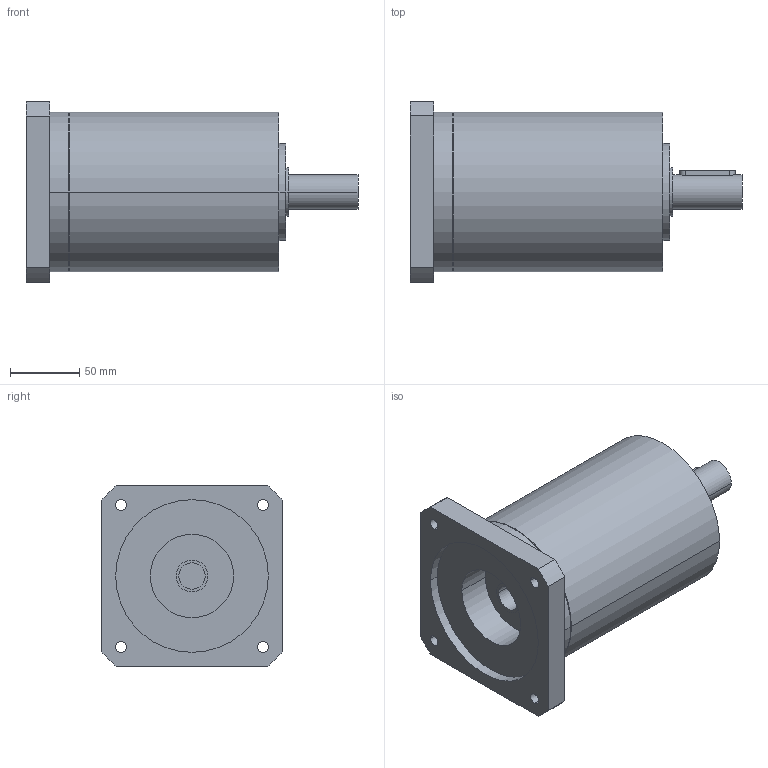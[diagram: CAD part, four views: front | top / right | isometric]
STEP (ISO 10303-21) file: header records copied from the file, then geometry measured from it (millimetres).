
FILE_DESCRIPTION(('CoCreate Modeling STEP Export'),'2;1');
FILE_NAME('GPR125_ig-9-12-16-20-28-35_25_B14_19_P11.stp','2014-08-26T14:10:43',(''),(''),'CoCreate Modeling STEP processor for AP214 (Solid Model)','CoCreate Modeling 16.00C 25-Feb-2009 (C) Parametric Technology GmbH','');
FILE_SCHEMA(('AUTOMOTIVE_DESIGN { 1 0 10303 214 1 1 1 1 }'));
Length unit declared in the file: millimetre
Products named in the file (2): GPR125_ig-9-12-16-20-28-35_25_B14_19_P11
Assembly tree (1 placements, depth 2):
  GPR125_ig-9-12-16-20-28-35_25_B14_19_P11
    GPR125_ig-9-12-16-20-28-35_25_B14_19_P11
Bounding box: 239.4 x 130 x 130 mm (x, y, z)
Volume: 1898057.3 mm3; surface area: 120916 mm2
Topology: 1 solids, 1 shells, 68 faces, 187 edges, 133 vertices
Faces by surface type: cylinder 42, plane 22, cone 4
Entity records: 1923 total; most frequent: ORIENTED_EDGE 370, CARTESIAN_POINT 362, DIRECTION 258, EDGE_CURVE 185, VERTEX_POINT 133, AXIS2_PLACEMENT_3D 97, EDGE_LOOP 90, FACE_OUTER_BOUND 68
